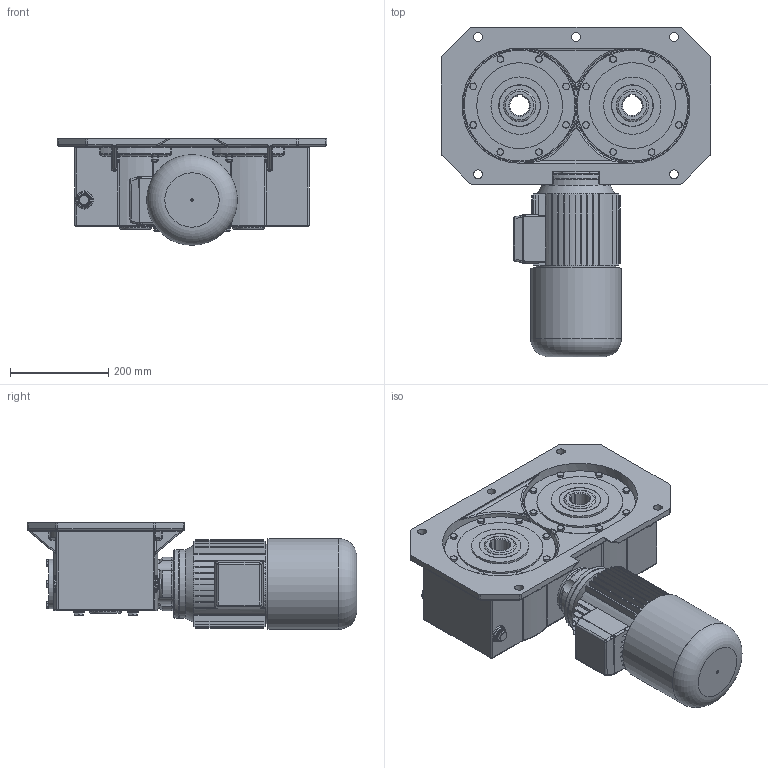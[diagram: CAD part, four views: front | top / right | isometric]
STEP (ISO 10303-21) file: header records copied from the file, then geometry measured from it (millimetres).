
FILE_DESCRIPTION((''),'2;1');
FILE_NAME('Y:\Archivi Inventor\Prog_07\int_230\Figurini\MRV2U_230 x sito\MRV2U_230_90S_B14_B.stp','2013-02-14T16:49:53',('tech3'),(''),'Autodesk Inventor 2013','Autodesk Inventor 2013','');
FILE_SCHEMA(('AUTOMOTIVE_DESIGN { 1 0 10303 214 1 1 1 1 }'));
Length unit declared in the file: millimetre
Products named in the file (12): Fig_MRV2U 230; Figurino_Carcassa 230_2U; 0723002; UNI 5739 M8 x 25; 0723009; Figurino_Corona 230_2U; UNI ISO 6194-1 (4) Tipo4 65 x  85 x  10; Tappo3_8 GAS; Guarnizione 3_8 GAS; DIN EN ISO 4762 M8 x 20; 0105006; motori B14 brake 90S
Assembly tree (44 placements, depth 2):
  Fig_MRV2U 230
    Figurino_Carcassa 230_2U
    0723002  x2
    UNI 5739 M8 x 25  x20
    0723009
    Figurino_Corona 230_2U  x2
    UNI ISO 6194-1 (4) Tipo4 65 x  85 x  10  x4
    Tappo3_8 GAS  x4
    Guarnizione 3_8 GAS  x4
    DIN EN ISO 4762 M8 x 20  x4
    0105006
    motori B14 brake 90S
Bounding box: 550 x 672 x 217.49 mm (x, y, z)
Volume: 22060638.7 mm3; surface area: 1684459.6 mm2
Topology: 45 solids, 45 shells, 1704 faces, 3906 edges, 2349 vertices
Faces by surface type: plane 770, cylinder 428, cone 210, bspline 138, torus 106, sphere 52
Full cylindrical faces by diameter (mm): 5 x1, 6.647 x28, 8 x24, 8.5 x8, 9 x20, 11.63 x20, 13 x4, 13.046 x4, 14 x4, 14.95 x4, 16.3 x4, 18 x5, 22 x8, 24 x1, 25 x4, 33 x3, 60 x1, 65 x4, 70 x1, 71 x4, 72 x4, 75 x1, 80 x4, 85 x8, 95 x1, 100 x2, 101 x1, 117 x2, 140 x2, 162.8 x1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
Entity records: 39327 total; most frequent: CARTESIAN_POINT 12863, DIRECTION 5403, ORIENTED_EDGE 4986, EDGE_CURVE 2493, AXIS2_PLACEMENT_3D 2122, VERTEX_POINT 1581, EDGE_LOOP 1429, VECTOR 1159
